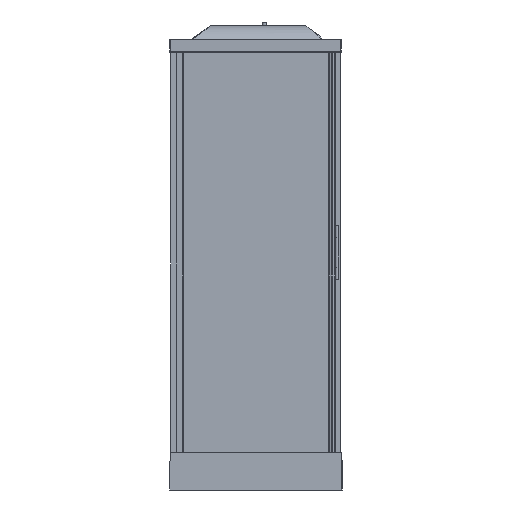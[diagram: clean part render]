
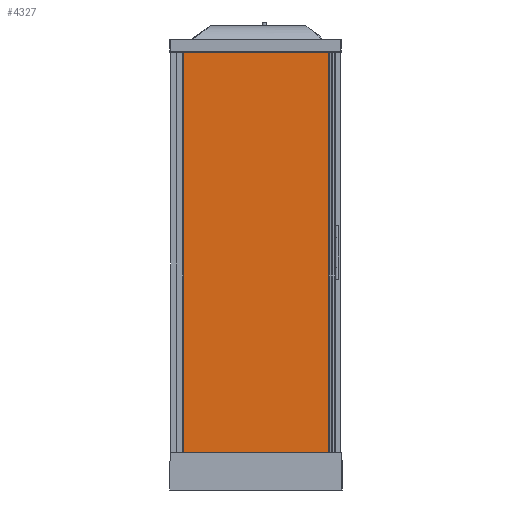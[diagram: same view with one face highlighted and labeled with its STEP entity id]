
A CAD part, left-side view. The second image highlights one B-rep face of the part: STEP entity #4327.
In plain terms, the highlighted planar face has unit normal (-1, 0, 0).
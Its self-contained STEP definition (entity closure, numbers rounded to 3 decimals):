
#4248=CARTESIAN_POINT('',(-1163.29,-58.545,164.561));
#4249=VERTEX_POINT('',#4248);
#4256=CARTESIAN_POINT('',(-1163.29,-58.545,2061.561));
#4257=VERTEX_POINT('',#4256);
#4258=CARTESIAN_POINT('',(-1163.29,-58.545,2061.561));
#4259=DIRECTION('',(0.0,0.0,-1.0));
#4260=VECTOR('',#4259,1897.0);
#4261=LINE('',#4258,#4260);
#4262=EDGE_CURVE('',#4257,#4249,#4261,.T.);
#4287=CARTESIAN_POINT('',(-1163.29,-751.545,164.561));
#4288=VERTEX_POINT('',#4287);
#4295=CARTESIAN_POINT('',(-1163.29,-58.545,164.561));
#4296=DIRECTION('',(0.0,-1.0,0.0));
#4297=VECTOR('',#4296,693.);
#4298=LINE('',#4295,#4297);
#4299=EDGE_CURVE('',#4249,#4288,#4298,.T.);
#4304=CARTESIAN_POINT('',(-1163.29,-28.895,69.711));
#4305=DIRECTION('',(-1.0,0.0,0.0));
#4306=DIRECTION('',(0.0,-1.0,0.0));
#4307=AXIS2_PLACEMENT_3D('',#4304,#4305,#4306);
#4308=PLANE('',#4307);
#4309=CARTESIAN_POINT('',(-1163.29,-751.545,2061.561));
#4310=VERTEX_POINT('',#4309);
#4311=CARTESIAN_POINT('',(-1163.29,-58.545,2061.561));
#4312=DIRECTION('',(0.0,-1.0,0.0));
#4313=VECTOR('',#4312,693.);
#4314=LINE('',#4311,#4313);
#4315=EDGE_CURVE('',#4257,#4310,#4314,.T.);
#4316=ORIENTED_EDGE('',*,*,#4315,.F.);
#4317=ORIENTED_EDGE('',*,*,#4262,.T.);
#4318=ORIENTED_EDGE('',*,*,#4299,.T.);
#4319=CARTESIAN_POINT('',(-1163.29,-751.545,164.561));
#4320=DIRECTION('',(0.0,0.0,1.0));
#4321=VECTOR('',#4320,1897.0);
#4322=LINE('',#4319,#4321);
#4323=EDGE_CURVE('',#4288,#4310,#4322,.T.);
#4324=ORIENTED_EDGE('',*,*,#4323,.T.);
#4325=EDGE_LOOP('',(#4316,#4317,#4318,#4324));
#4326=FACE_OUTER_BOUND('',#4325,.T.);
#4327=ADVANCED_FACE('',(#4326),#4308,.T.);
